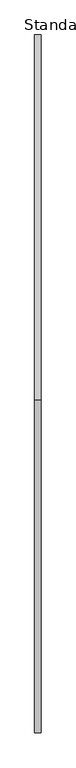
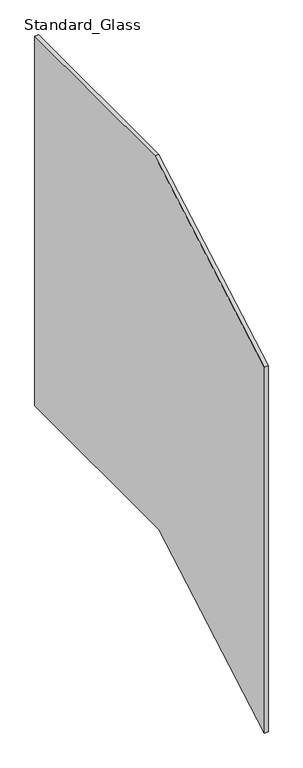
"""IFC4 building model written with IfcOpenShell, lengths in millimetres: railing geometry, Baluster-Landing-Panel-VIVA-VISIO-Lower : Standard_Glass."""

from ifc_helpers import new_model, si_unit, frame, origin, place, context, project, spatial, polyline, outline, extrude, source, transform, mapped, element, save


def standard_glass_76b25bda(model_context):
    return source(origin(), model_context, "Body", "SweptSolid", [
        extrude(outline(polyline([(483.1849138, 1087.12), (1018.33476, 1087.12), (1018.33476, 82.4760612), (464.4467562, 82.4760612), (-5.0108793, -185.7323924), (-5.0108793, 808.2061453), (483.1849138, 1087.12)])), frame((33.3375, 0.0, 0.0), z_axis=(1.0, 0.0, 0.0), x_axis=(0.0, 1.0, 0.0)), (0.0, 0.0, 1.0), 9.525),
    ])


if __name__ == "__main__":
    model = new_model("IFC4")
    model_context = context("Model", 3, world=origin())
    ifc_project = project(units=[si_unit("LENGTHUNIT", "METRE", prefix="MILLI")], contexts=[model_context])
    site = spatial("IfcSite", under=ifc_project)
    building = spatial("IfcBuilding", under=site)
    placement = place(None, origin())
    standard_glass_shape = standard_glass_76b25bda(model_context)
    element("IfcRailing", 1, ObjectType="Baluster-Landing-Panel-VIVA-VISIO-Lower : Standard_Glass", at=placement, inside=building, context=model_context, shape_type="MappedRepresentation", body=[
        mapped(standard_glass_shape, transform((0.0, 0.0, 0.0), x_axis=(1.0, 0.0, 0.0), y_axis=(0.0, 1.0, 0.0), z_axis=(0.0, 0.0, 1.0))),
    ])
    save(model, "model.ifc")
